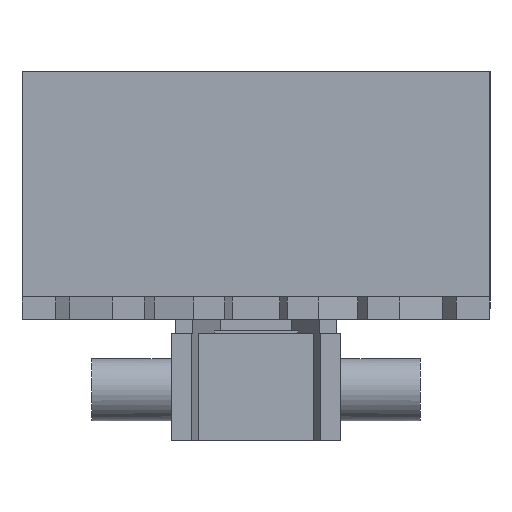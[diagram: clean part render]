
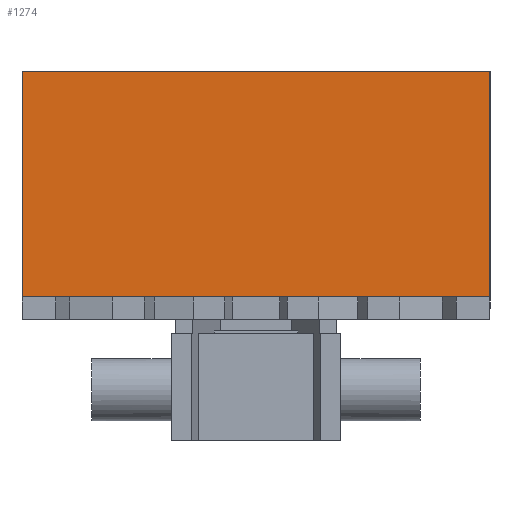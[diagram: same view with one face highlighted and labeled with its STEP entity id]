
A CAD part, left-side view. The second image highlights one B-rep face of the part: STEP entity #1274.
In plain terms, the highlighted planar face has unit normal (-1, 0, 0).
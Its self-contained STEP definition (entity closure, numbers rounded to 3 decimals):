
#103 = CARTESIAN_POINT ( 'NONE',  ( -9.252, 33.052, 42.5 ) ) ;
#108 = CARTESIAN_POINT ( 'NONE',  ( -9.252, 33.013, 42.5 ) ) ;
#111 = CARTESIAN_POINT ( 'NONE',  ( -9.252, -33.013, 42.5 ) ) ;
#121 = DIRECTION ( 'NONE',  ( 0., -1., 0. ) ) ;
#122 = VECTOR ( 'NONE', #121, 1000. ) ;
#125 = LINE ( 'NONE', #127, #122 ) ;
#127 = CARTESIAN_POINT ( 'NONE',  ( -9.252, -41.5, 42.5 ) ) ;
#222 = CARTESIAN_POINT ( 'NONE',  ( -9.252, 41.5, 42.5 ) ) ;
#248 = EDGE_CURVE ( 'NONE', #256, #1709, #390, .T. ) ;
#256 = VERTEX_POINT ( 'NONE', #444 ) ;
#387 = DIRECTION ( 'NONE',  ( 0., -1., 0. ) ) ;
#388 = VECTOR ( 'NONE', #387, 1000. ) ;
#389 = CARTESIAN_POINT ( 'NONE',  ( -9.252, -41.5, 42.5 ) ) ;
#390 = LINE ( 'NONE', #389, #388 ) ;
#395 = VERTEX_POINT ( 'NONE', #222 ) ;
#414 = EDGE_CURVE ( 'NONE', #395, #2827, #1703, .T. ) ;
#444 = CARTESIAN_POINT ( 'NONE',  ( -9.252, -33.052, 42.5 ) ) ;
#675 = EDGE_CURVE ( 'NONE', #699, #395, #2201, .T. ) ;
#699 = VERTEX_POINT ( 'NONE', #2234 ) ;
#909 = CARTESIAN_POINT ( 'NONE',  ( -9.252, -41.5, 42.5 ) ) ;
#911 = DIRECTION ( 'NONE',  ( 0., -1., 0. ) ) ;
#912 = LINE ( 'NONE', #909, #951 ) ;
#951 = VECTOR ( 'NONE', #911, 1000. ) ;
#1135 = VERTEX_POINT ( 'NONE', #2889 ) ;
#1182 = EDGE_CURVE ( 'NONE', #1135, #1709, #2985, .T. ) ;
#1255 = EDGE_CURVE ( 'NONE', #2832, #256, #3066, .T. ) ;
#1262 = ORIENTED_EDGE ( 'NONE', *, *, #2742, .T. ) ;
#1263 = EDGE_LOOP ( 'NONE', ( #1262, #1282, #1280, #1279, #1281, #1272, #1302, #1293 ) ) ;
#1272 = ORIENTED_EDGE ( 'NONE', *, *, #675, .T. ) ;
#1273 = EDGE_CURVE ( 'NONE', #699, #1135, #3118, .T. ) ;
#1274 = ADVANCED_FACE ( 'NONE', ( #3078 ), #3108, .F. ) ;
#1278 = EDGE_CURVE ( 'NONE', #2827, #2844, #912, .T. ) ;
#1279 = ORIENTED_EDGE ( 'NONE', *, *, #1182, .F. ) ;
#1280 = ORIENTED_EDGE ( 'NONE', *, *, #248, .T. ) ;
#1281 = ORIENTED_EDGE ( 'NONE', *, *, #1273, .F. ) ;
#1282 = ORIENTED_EDGE ( 'NONE', *, *, #1255, .T. ) ;
#1293 = ORIENTED_EDGE ( 'NONE', *, *, #1278, .T. ) ;
#1302 = ORIENTED_EDGE ( 'NONE', *, *, #414, .T. ) ;
#1693 = DIRECTION ( 'NONE',  ( 0., -1., 0. ) ) ;
#1694 = VECTOR ( 'NONE', #1693, 1000. ) ;
#1695 = CARTESIAN_POINT ( 'NONE',  ( -9.252, -41.5, 42.5 ) ) ;
#1703 = LINE ( 'NONE', #1695, #1694 ) ;
#1709 = VERTEX_POINT ( 'NONE', #3708 ) ;
#2201 = LINE ( 'NONE', #2257, #2256 ) ;
#2234 = CARTESIAN_POINT ( 'NONE',  ( -9.252, 41.5, 82.5 ) ) ;
#2255 = DIRECTION ( 'NONE',  ( 0., 0., -1. ) ) ;
#2256 = VECTOR ( 'NONE', #2255, 1000. ) ;
#2257 = CARTESIAN_POINT ( 'NONE',  ( -9.252, 41.5, 82.5 ) ) ;
#2742 = EDGE_CURVE ( 'NONE', #2844, #2832, #125, .T. ) ;
#2827 = VERTEX_POINT ( 'NONE', #103 ) ;
#2832 = VERTEX_POINT ( 'NONE', #111 ) ;
#2844 = VERTEX_POINT ( 'NONE', #108 ) ;
#2889 = CARTESIAN_POINT ( 'NONE',  ( -9.252, -41.5, 82.5 ) ) ;
#2982 = DIRECTION ( 'NONE',  ( 0., 0., -1. ) ) ;
#2983 = VECTOR ( 'NONE', #2982, 1000. ) ;
#2984 = CARTESIAN_POINT ( 'NONE',  ( -9.252, -41.5, 82.5 ) ) ;
#2985 = LINE ( 'NONE', #2984, #2983 ) ;
#3038 = VECTOR ( 'NONE', #3103, 1000. ) ;
#3066 = LINE ( 'NONE', #3115, #3114 ) ;
#3078 = FACE_OUTER_BOUND ( 'NONE', #1263, .T. ) ;
#3098 = DIRECTION ( 'NONE',  ( 0., 1., 0. ) ) ;
#3099 = DIRECTION ( 'NONE',  ( 1., 0., 0. ) ) ;
#3100 = CARTESIAN_POINT ( 'NONE',  ( -9.252, -41.5, 82.5 ) ) ;
#3101 = AXIS2_PLACEMENT_3D ( 'NONE', #3100, #3099, #3098 ) ;
#3103 = DIRECTION ( 'NONE',  ( 0., -1., 0. ) ) ;
#3108 = PLANE ( 'NONE',  #3101 ) ;
#3113 = DIRECTION ( 'NONE',  ( 0., -1., 0. ) ) ;
#3114 = VECTOR ( 'NONE', #3113, 1000. ) ;
#3115 = CARTESIAN_POINT ( 'NONE',  ( -9.252, -41.5, 42.5 ) ) ;
#3117 = CARTESIAN_POINT ( 'NONE',  ( -9.252, -41.5, 82.5 ) ) ;
#3118 = LINE ( 'NONE', #3117, #3038 ) ;
#3708 = CARTESIAN_POINT ( 'NONE',  ( -9.252, -41.5, 42.5 ) ) ;
